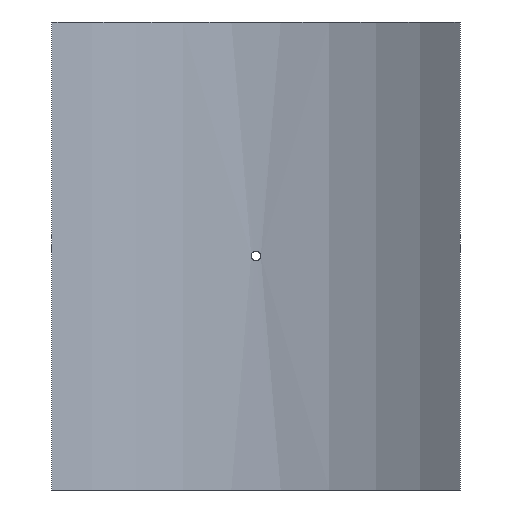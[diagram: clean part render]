
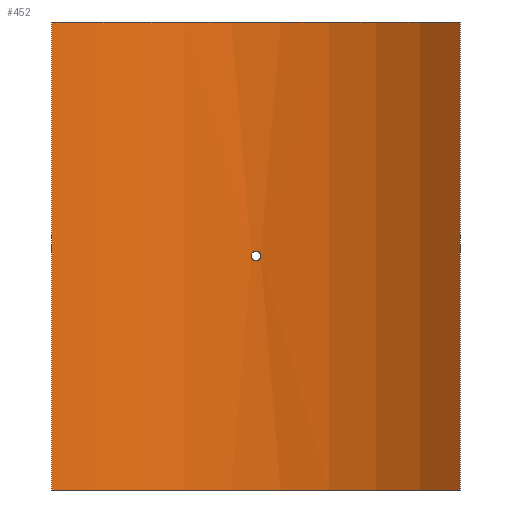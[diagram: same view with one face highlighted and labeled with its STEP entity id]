
A CAD part, front view. The second image highlights one B-rep face of the part: STEP entity #452.
In plain terms, the highlighted cylindrical face has radius 315 mm (diameter 630 mm), a partial arc.
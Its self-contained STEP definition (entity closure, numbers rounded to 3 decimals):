
#19=B_SPLINE_CURVE_WITH_KNOTS('',3,(#788,#789,#790,#791,#792,#793,#794,
#795,#796,#797,#798,#799,#800,#801,#802,#803,#804,#805,#806,#807,#808,#809,
#810,#811,#812,#813,#814,#815,#816,#817,#818,#819,#820,#821),
 .UNSPECIFIED.,.T.,.F.,(4,2,2,2,2,2,2,2,2,2,2,2,2,2,2,2,4),(0.,0.181,
0.362,0.542,0.723,0.904,
1.085,1.266,1.447,1.627,1.808,
1.989,2.17,2.351,2.531,2.712,
2.893),.UNSPECIFIED.);
#43=LINE('',#1065,#62);
#44=LINE('',#1068,#63);
#62=VECTOR('',#661,10.);
#63=VECTOR('',#664,10.);
#76=CYLINDRICAL_SURFACE('',#530,315.);
#88=FACE_BOUND('',#167,.T.);
#127=FACE_OUTER_BOUND('',#166,.T.);
#166=EDGE_LOOP('',(#405,#406,#407,#408));
#167=EDGE_LOOP('',(#409));
#201=CIRCLE('',#529,315.);
#202=CIRCLE('',#531,315.);
#219=VERTEX_POINT('',#786);
#242=VERTEX_POINT('',#1058);
#243=VERTEX_POINT('',#1060);
#244=VERTEX_POINT('',#1064);
#245=VERTEX_POINT('',#1066);
#267=EDGE_CURVE('',#219,#219,#19,.T.);
#299=EDGE_CURVE('',#242,#243,#201,.T.);
#301=EDGE_CURVE('',#244,#242,#43,.T.);
#302=EDGE_CURVE('',#245,#244,#202,.T.);
#303=EDGE_CURVE('',#245,#243,#44,.T.);
#405=ORIENTED_EDGE('',*,*,#301,.F.);
#406=ORIENTED_EDGE('',*,*,#302,.F.);
#407=ORIENTED_EDGE('',*,*,#303,.T.);
#408=ORIENTED_EDGE('',*,*,#299,.F.);
#409=ORIENTED_EDGE('',*,*,#267,.T.);
#452=ADVANCED_FACE('',(#127,#88),#76,.F.);
#529=AXIS2_PLACEMENT_3D('',#1061,#656,#657);
#530=AXIS2_PLACEMENT_3D('',#1063,#659,#660);
#531=AXIS2_PLACEMENT_3D('',#1067,#662,#663);
#656=DIRECTION('center_axis',(0.,0.,1.));
#657=DIRECTION('ref_axis',(0.651,0.759,0.));
#659=DIRECTION('center_axis',(0.,0.,1.));
#660=DIRECTION('ref_axis',(0.651,0.759,0.));
#661=DIRECTION('',(0.,0.,-1.));
#662=DIRECTION('center_axis',(0.,0.,-1.));
#663=DIRECTION('ref_axis',(0.651,0.759,0.));
#664=DIRECTION('',(0.,0.,-1.));
#786=CARTESIAN_POINT('',(4.8,314.963,0.));
#788=CARTESIAN_POINT('Ctrl Pts',(4.8,314.963,0.));
#789=CARTESIAN_POINT('Ctrl Pts',(4.8,314.963,-0.603));
#790=CARTESIAN_POINT('Ctrl Pts',(4.68,314.965,-1.246));
#791=CARTESIAN_POINT('Ctrl Pts',(4.19,314.972,-2.428));
#792=CARTESIAN_POINT('Ctrl Pts',(3.82,314.977,-2.968));
#793=CARTESIAN_POINT('Ctrl Pts',(2.968,314.986,-3.82));
#794=CARTESIAN_POINT('Ctrl Pts',(2.428,314.991,-4.19));
#795=CARTESIAN_POINT('Ctrl Pts',(1.246,314.998,-4.68));
#796=CARTESIAN_POINT('Ctrl Pts',(0.603,315.,-4.8));
#797=CARTESIAN_POINT('Ctrl Pts',(-0.603,315.,-4.8));
#798=CARTESIAN_POINT('Ctrl Pts',(-1.246,314.998,-4.68));
#799=CARTESIAN_POINT('Ctrl Pts',(-2.428,314.991,-4.19));
#800=CARTESIAN_POINT('Ctrl Pts',(-2.968,314.986,-3.82));
#801=CARTESIAN_POINT('Ctrl Pts',(-3.82,314.977,-2.968));
#802=CARTESIAN_POINT('Ctrl Pts',(-4.19,314.972,-2.428));
#803=CARTESIAN_POINT('Ctrl Pts',(-4.68,314.965,-1.246));
#804=CARTESIAN_POINT('Ctrl Pts',(-4.8,314.963,-0.603));
#805=CARTESIAN_POINT('Ctrl Pts',(-4.8,314.963,0.603));
#806=CARTESIAN_POINT('Ctrl Pts',(-4.68,314.965,1.246));
#807=CARTESIAN_POINT('Ctrl Pts',(-4.19,314.972,2.428));
#808=CARTESIAN_POINT('Ctrl Pts',(-3.82,314.977,2.968));
#809=CARTESIAN_POINT('Ctrl Pts',(-2.968,314.986,3.82));
#810=CARTESIAN_POINT('Ctrl Pts',(-2.428,314.991,4.19));
#811=CARTESIAN_POINT('Ctrl Pts',(-1.246,314.998,4.68));
#812=CARTESIAN_POINT('Ctrl Pts',(-0.603,315.,4.8));
#813=CARTESIAN_POINT('Ctrl Pts',(0.603,315.,4.8));
#814=CARTESIAN_POINT('Ctrl Pts',(1.246,314.998,4.68));
#815=CARTESIAN_POINT('Ctrl Pts',(2.428,314.991,4.19));
#816=CARTESIAN_POINT('Ctrl Pts',(2.968,314.986,3.82));
#817=CARTESIAN_POINT('Ctrl Pts',(3.82,314.977,2.968));
#818=CARTESIAN_POINT('Ctrl Pts',(4.19,314.972,2.428));
#819=CARTESIAN_POINT('Ctrl Pts',(4.68,314.965,1.246));
#820=CARTESIAN_POINT('Ctrl Pts',(4.8,314.963,0.603));
#821=CARTESIAN_POINT('Ctrl Pts',(4.8,314.963,0.));
#1058=CARTESIAN_POINT('',(205.,239.165,-235.));
#1060=CARTESIAN_POINT('',(-205.,239.165,-235.));
#1061=CARTESIAN_POINT('Origin',(0.,0.,
-235.));
#1063=CARTESIAN_POINT('Origin',(0.,0.,
0.));
#1064=CARTESIAN_POINT('',(205.,239.165,235.));
#1065=CARTESIAN_POINT('',(205.,239.165,0.));
#1066=CARTESIAN_POINT('',(-205.,239.165,235.));
#1067=CARTESIAN_POINT('Origin',(0.,0.,
235.));
#1068=CARTESIAN_POINT('',(-205.,239.165,0.));
